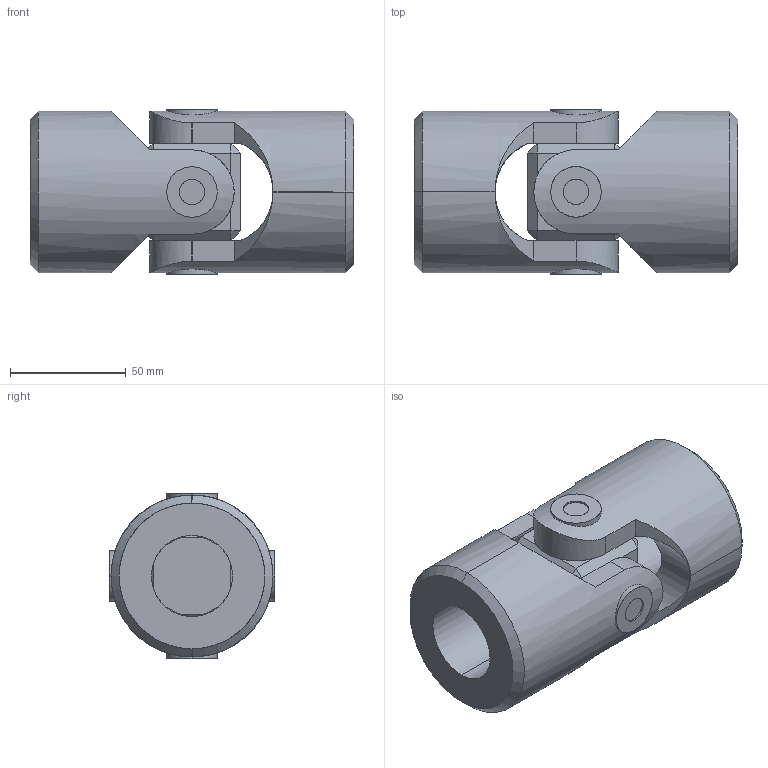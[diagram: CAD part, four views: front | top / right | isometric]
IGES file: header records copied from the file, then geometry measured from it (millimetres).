
Start section: SolidWorks IGES file using analytic representation for surfaces
Global section: file name: C:\Users\IanO\Desktop\R3690_v2\R3690_v2_20231020_IGES\R3690.035-RB.igs; native system: SolidWorks 2019; preprocessor: SolidWorks 2019; author: IanO; date: 231020.152350; units: millimetre
Bounding box: 140 x 71.4 x 71.4 mm (x, y, z)
Surface area: 76047.4 mm2 (no closed solid volume)
Topology: 0 solids, 0 shells, 104 faces, 2522 edges, 2522 vertices
Faces by surface type: bspline 56, revolution 48
